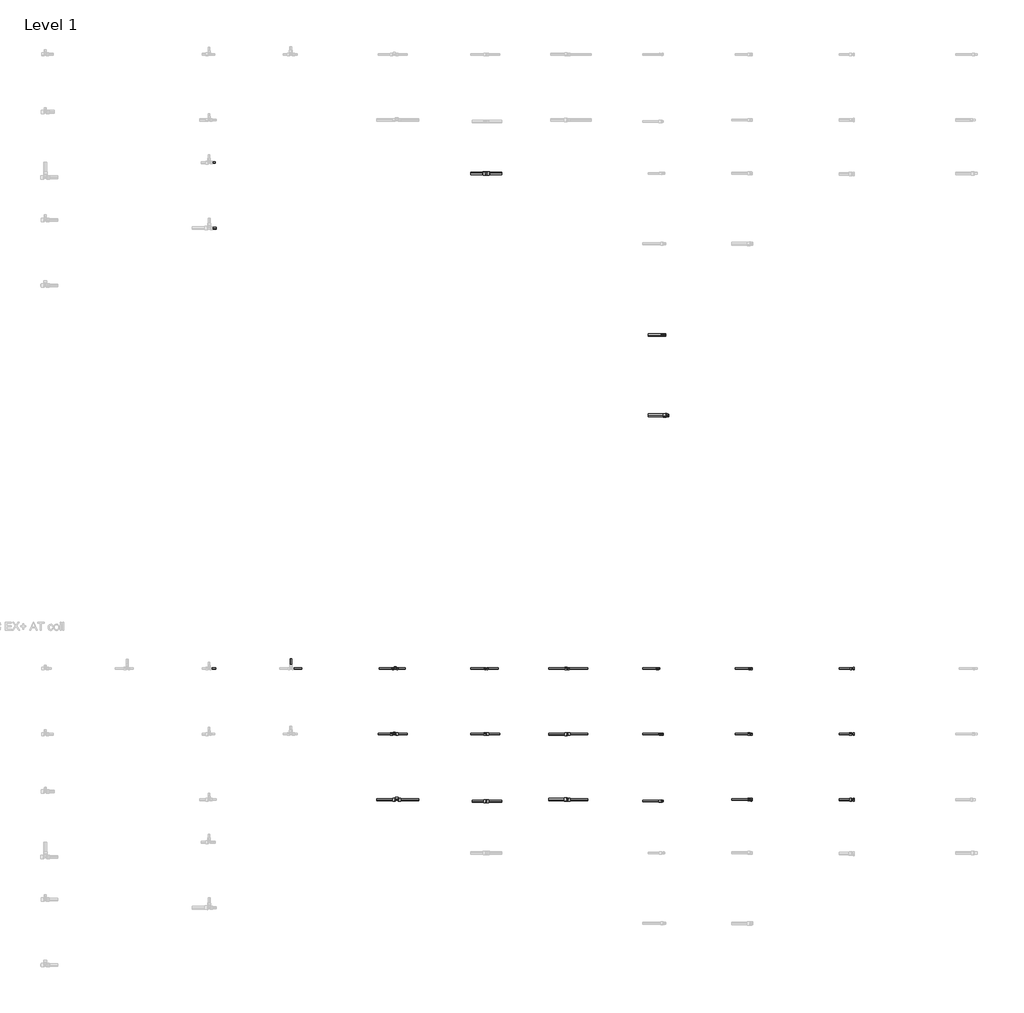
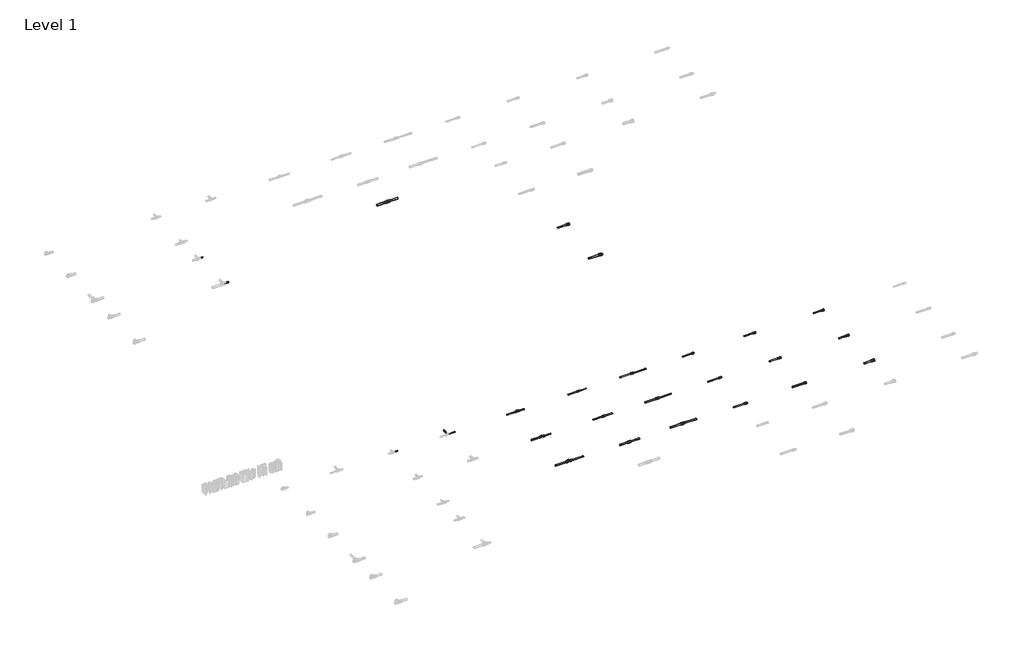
# One storey, part 8 of 16: 36 pipe segments, 21 pipe fittings.
"""IFC4 building model written with IfcOpenShell, lengths in millimetres."""

from ifc_helpers import new_model, si_unit, point, frame, frame_2d, origin, place, context, project, spatial, circle_curve, trimmed, segment, composite_curve, outline, extrude, transform, mapped, element, save
from components import pipe_fitting_431f7250, pipe_fitting_a4fef31a, pipe_fitting_41a35f07, pipe_fitting_bbd05bdc, pipe_fitting_027be69e, pipe_fitting_e3b44c6b, pipe_fitting_688652c5, pipe_fitting_6195120d, pipe_fitting_f5731c1c, pipe_fitting_1d22680d, pipe_fitting_5e3c5755, pipe_fitting_f9f4b2e9, pipe_fitting_382bea88, pipe_fitting_3eb6683a, pipe_fitting_836a2278, pipe_fitting_a8691e68, pipe_fitting_c518d98d, pipe_fitting_b7086254, pipe_fitting_ca26b6f5, pipe_fitting_f7ee4d9f, pipe_fitting_f8d70d0e

model = new_model("IFC4")

# Units and contexts
model_context = context("Model", 3, world=origin())
ifc_project = project(units=[si_unit("LENGTHUNIT", "METRE", prefix="MILLI")], contexts=[model_context])

# Site, building, storey
site = spatial("IfcSite", under=ifc_project)
building = spatial("IfcBuilding", under=site)
storey = spatial("IfcBuildingStorey", under=building, Name="Level 1", Elevation=0.0)

# Pipe fittings
placement = place(None, origin())
pipe_fitting_shape = pipe_fitting_431f7250(model_context)
element("IfcPipeFitting", 1, ObjectType="FASTLOC_Adapter_RX+, with external thread : FSL A C external EX+ DE", at=placement, inside=storey, context=model_context, shape_type="MappedRepresentation", body=[
    mapped(pipe_fitting_shape, transform((37515.9601208, -2213.6704117, 0.0), x_axis=(1.0, 0.0, 0.0), y_axis=(0.0, 1.0, 0.0), z_axis=(0.0, 0.0, 1.0))),
])
pipe_fitting_2_shape = pipe_fitting_a4fef31a(model_context)
element("IfcPipeFitting", 2, ObjectType="FASTLOC_Adapter_RX+, with external thread : FSL A C external EX+ DE", at=placement, inside=storey, context=model_context, shape_type="MappedRepresentation", body=[
    mapped(pipe_fitting_2_shape, transform((37553.9463601, -3193.7153858, 0.0), x_axis=(1.0, 0.0, 0.0), y_axis=(0.0, 1.0, 0.0), z_axis=(0.0, 0.0, 1.0))),
])
pipe_fitting_3_shape = pipe_fitting_41a35f07(model_context)
element("IfcPipeFitting", 3, ObjectType="FASTLOC_Adapter_RX+, with external thread : FSL A C external EX+ AT", at=placement, inside=storey, context=model_context, shape_type="MappedRepresentation", body=[
    mapped(pipe_fitting_3_shape, transform((37480.5062975, -7087.6479967, 0.0), x_axis=(1.0, 0.0, 0.0), y_axis=(0.0, 1.0, 0.0), z_axis=(0.0, 0.0, 1.0))),
])
pipe_fitting_4_shape = pipe_fitting_bbd05bdc(model_context)
element("IfcPipeFitting", 4, ObjectType="FASTLOC_Adapter_RX+, with external thread : FSL A C external EX+ AT", at=placement, inside=storey, context=model_context, shape_type="MappedRepresentation", body=[
    mapped(pipe_fitting_4_shape, transform((37490.6359613, -7906.354246, 0.0), x_axis=(1.0, 0.0, 0.0), y_axis=(0.0, 1.0, 0.0), z_axis=(0.0, 0.0, 1.0))),
])
pipe_fitting_5_shape = pipe_fitting_027be69e(model_context)
element("IfcPipeFitting", 5, ObjectType="FASTLOC_Coupling equal EX+ : FSL C EQ EX+ AT", at=placement, inside=storey, context=model_context, shape_type="MappedRepresentation", body=[
    mapped(pipe_fitting_5_shape, transform((35347.6401575, -6287.6479967, 0.0), x_axis=(1.0, 0.0, 0.0), y_axis=(0.0, 1.0, 0.0), z_axis=(0.0, 0.0, 1.0))),
])
pipe_fitting_6_shape = pipe_fitting_e3b44c6b(model_context)
element("IfcPipeFitting", 6, ObjectType="FASTLOC_T-piece internal thread EX+ : FSL T thread EX+ AT", at=placement, inside=storey, context=model_context, shape_type="MappedRepresentation", body=[
    mapped(pipe_fitting_6_shape, transform((34223.972973, -7087.6479967, 0.0), x_axis=(1.0, 0.0, 0.0), y_axis=(0.0, 1.0, 0.0), z_axis=(0.0, 0.0, 1.0))),
])
pipe_fitting_7_shape = pipe_fitting_688652c5(model_context)
element("IfcPipeFitting", 7, ObjectType="FASTLOC_T-piece internal thread EX+ : FSL T thread EX+ AT", at=placement, inside=storey, context=model_context, shape_type="MappedRepresentation", body=[
    mapped(pipe_fitting_7_shape, transform((34254.9423493, -7887.6479967, 0.0), x_axis=(1.0, 0.0, 0.0), y_axis=(0.0, 1.0, 0.0), z_axis=(0.0, 0.0, 1.0))),
])
pipe_fitting_8_shape = pipe_fitting_6195120d(model_context)
element("IfcPipeFitting", 8, ObjectType="FASTLOC_Coupling reduced EX+ : FSL C RE EX+ AT", at=placement, inside=storey, context=model_context, shape_type="MappedRepresentation", body=[
    mapped(pipe_fitting_8_shape, transform((36342.2258143, -6287.6479967, 0.0), x_axis=(1.0, 0.0, 0.0), y_axis=(0.0, 1.0, 0.0), z_axis=(0.0, 0.0, 1.0))),
])
pipe_fitting_9_shape = pipe_fitting_f5731c1c(model_context)
element("IfcPipeFitting", 9, ObjectType="FASTLOC_Coupling equal EX+ : FSL C EQ EX+ DE", at=placement, inside=storey, context=model_context, shape_type="MappedRepresentation", body=[
    mapped(pipe_fitting_9_shape, transform((35347.6401575, -239.0537829, 0.0), x_axis=(1.0, 0.0, 0.0), y_axis=(0.0, 1.0, 0.0), z_axis=(0.0, 0.0, 1.0))),
])
pipe_fitting_10_shape = pipe_fitting_1d22680d(model_context)
element("IfcPipeFitting", 10, ObjectType="FASTLOC_Coupling equal EX+ : FSL C EQ EX+ AT", at=placement, inside=storey, context=model_context, shape_type="MappedRepresentation", body=[
    mapped(pipe_fitting_10_shape, transform((35347.6401575, -7087.6479967, 0.0), x_axis=(1.0, 0.0, 0.0), y_axis=(0.0, 1.0, 0.0), z_axis=(0.0, 0.0, 1.0))),
])
pipe_fitting_11_shape = pipe_fitting_5e3c5755(model_context)
element("IfcPipeFitting", 11, ObjectType="FASTLOC_Coupling equal EX+ : FSL C EQ EX+ AT", at=placement, inside=storey, context=model_context, shape_type="MappedRepresentation", body=[
    mapped(pipe_fitting_11_shape, transform((35347.6401575, -7906.354246, 0.0), x_axis=(1.0, 0.0, 0.0), y_axis=(0.0, 1.0, 0.0), z_axis=(0.0, 0.0, 1.0))),
])
pipe_fitting_12_shape = pipe_fitting_f9f4b2e9(model_context)
element("IfcPipeFitting", 12, ObjectType="FASTLOC_Coupling reduced EX+ : FSL C RE EX+ AT", at=placement, inside=storey, context=model_context, shape_type="MappedRepresentation", body=[
    mapped(pipe_fitting_12_shape, transform((36342.2258143, -7087.6479967, 0.0), x_axis=(1.0, 0.0, 0.0), y_axis=(0.0, 1.0, 0.0), z_axis=(0.0, 0.0, 1.0))),
])
pipe_fitting_13_shape = pipe_fitting_382bea88(model_context)
element("IfcPipeFitting", 13, ObjectType="FASTLOC_Coupling reduced EX+ : FSL C RE EX+ AT", at=placement, inside=storey, context=model_context, shape_type="MappedRepresentation", body=[
    mapped(pipe_fitting_13_shape, transform((36342.2258143, -7887.6479967, 0.0), x_axis=(1.0, 0.0, 0.0), y_axis=(0.0, 1.0, 0.0), z_axis=(0.0, 0.0, 1.0))),
])
pipe_fitting_14_shape = pipe_fitting_3eb6683a(model_context)
element("IfcPipeFitting", 14, ObjectType="FASTLOC_T-piece internal thread EX+ : FSL T thread EX+ AT", at=placement, inside=storey, context=model_context, shape_type="MappedRepresentation", body=[
    mapped(pipe_fitting_14_shape, transform((34234.0203333, -6287.6479967, 0.0), x_axis=(1.0, 0.0, 0.0), y_axis=(0.0, 1.0, 0.0), z_axis=(0.0, 0.0, 1.0))),
])
pipe_fitting_15_shape = pipe_fitting_836a2278(model_context)
element("IfcPipeFitting", 15, ObjectType="FASTLOC_Adapter_EX+, with internal thread : FSL A internal AT", at=placement, inside=storey, context=model_context, shape_type="MappedRepresentation", body=[
    mapped(pipe_fitting_15_shape, transform((38579.5143796, -6287.6479967, 0.0), x_axis=(1.0, 0.0, 0.0), y_axis=(0.0, 1.0, 0.0), z_axis=(0.0, 0.0, 1.0))),
])
pipe_fitting_16_shape = pipe_fitting_a8691e68(model_context)
element("IfcPipeFitting", 16, ObjectType="FASTLOC_Adapter_RX+, with external thread : FSL A C external EX+ AT", at=placement, inside=storey, context=model_context, shape_type="MappedRepresentation", body=[
    mapped(pipe_fitting_16_shape, transform((37445.0524741, -6287.6479967, 0.0), x_axis=(1.0, 0.0, 0.0), y_axis=(0.0, 1.0, 0.0), z_axis=(0.0, 0.0, 1.0))),
])
pipe_fitting_17_shape = pipe_fitting_c518d98d(model_context)
element("IfcPipeFitting", 17, ObjectType="FASTLOC_Adapter with union nut EX+ : FSL A union nut EX+ AT", at=placement, inside=storey, context=model_context, shape_type="MappedRepresentation", body=[
    mapped(pipe_fitting_17_shape, transform((39818.3503777, -7087.6479967, 0.0), x_axis=(1.0, 0.0, 0.0), y_axis=(0.0, 1.0, 0.0), z_axis=(0.0, 0.0, 1.0))),
])
pipe_fitting_18_shape = pipe_fitting_b7086254(model_context)
element("IfcPipeFitting", 18, ObjectType="FASTLOC_Adapter with union nut EX+ : FSL A union nut EX+ AT", at=placement, inside=storey, context=model_context, shape_type="MappedRepresentation", body=[
    mapped(pipe_fitting_18_shape, transform((39818.3503777, -7887.6479967, 0.0), x_axis=(1.0, 0.0, 0.0), y_axis=(0.0, 1.0, 0.0), z_axis=(0.0, 0.0, 1.0))),
])
pipe_fitting_19_shape = pipe_fitting_ca26b6f5(model_context)
element("IfcPipeFitting", 19, ObjectType="FASTLOC_Adapter with union nut EX+ : FSL A union nut EX+ AT", at=placement, inside=storey, context=model_context, shape_type="MappedRepresentation", body=[
    mapped(pipe_fitting_19_shape, transform((39818.3503777, -6287.6479967, 0.0), x_axis=(1.0, 0.0, 0.0), y_axis=(0.0, 1.0, 0.0), z_axis=(0.0, 0.0, 1.0))),
])
pipe_fitting_20_shape = pipe_fitting_f7ee4d9f(model_context)
element("IfcPipeFitting", 20, ObjectType="FASTLOC_Adapter_EX+, with internal thread : FSL A internal AT", at=placement, inside=storey, context=model_context, shape_type="MappedRepresentation", body=[
    mapped(pipe_fitting_20_shape, transform((38579.5143796, -7087.6479967, 0.0), x_axis=(1.0, 0.0, 0.0), y_axis=(0.0, 1.0, 0.0), z_axis=(0.0, 0.0, 1.0))),
])
pipe_fitting_21_shape = pipe_fitting_f8d70d0e(model_context)
element("IfcPipeFitting", 21, ObjectType="FASTLOC_Adapter_EX+, with internal thread : FSL A internal AT", at=placement, inside=storey, context=model_context, shape_type="MappedRepresentation", body=[
    mapped(pipe_fitting_21_shape, transform((38579.5143796, -7887.6479967, 0.0), x_axis=(1.0, 0.0, 0.0), y_axis=(0.0, 1.0, 0.0), z_axis=(0.0, 0.0, 1.0))),
])

# Pipe segments
element("IfcPipeSegment", 22, ObjectType="FASTLOC EX+ ML DE coil", at=placement, inside=storey, context=model_context, shape_type="SweptSolid", body=[
    extrude(outline(composite_curve([segment(trimmed(circle_curve(frame_2d((-2213.6704117, 0.0)), 12.5), [point((-2201.1704117, 0.0))], [point((-2213.6704117, -12.5))], False, "CARTESIAN"), True, "CONTINUOUS"), segment(trimmed(circle_curve(frame_2d((-2213.6704117, 0.0)), 12.5), [point((-2213.6704117, -12.5))], [point((-2226.1704117, 0.0))], False, "CARTESIAN"), True, "CONTINUOUS"), segment(trimmed(circle_curve(frame_2d((-2213.6704117, 0.0)), 12.5), [point((-2226.1704117, 0.0))], [point((-2213.6704117, 12.5))], False, "CARTESIAN"), True, "CONTINUOUS"), segment(trimmed(circle_curve(frame_2d((-2213.6704117, 0.0)), 12.5), [point((-2213.6704117, 12.5))], [point((-2201.1704117, 0.0))], False, "CARTESIAN"), True, "CONTINUOUS")], self_intersect=False)), frame((37326.5601208, 0.0, 0.0), z_axis=(1.0, 0.0, 0.0), x_axis=(0.0, 1.0, 0.0)), (0.0, 0.0, 1.0), 180.0),
])
element("IfcPipeSegment", 23, ObjectType="FASTLOC EX+ ML DE coil", at=placement, inside=storey, context=model_context, shape_type="SweptSolid", body=[
    extrude(outline(composite_curve([segment(trimmed(circle_curve(frame_2d((-239.0537829, 0.0)), 16.0), [point((-255.0537829, 0.0))], [point((-239.0537829, 16.0))], False, "CARTESIAN"), True, "CONTINUOUS"), segment(trimmed(circle_curve(frame_2d((-239.0537829, 0.0)), 16.0), [point((-239.0537829, 16.0))], [point((-223.0537829, 0.0))], False, "CARTESIAN"), True, "CONTINUOUS"), segment(trimmed(circle_curve(frame_2d((-239.0537829, 0.0)), 16.0), [point((-223.0537829, 0.0))], [point((-239.0537829, -16.0))], False, "CARTESIAN"), True, "CONTINUOUS"), segment(trimmed(circle_curve(frame_2d((-239.0537829, 0.0)), 16.0), [point((-239.0537829, -16.0))], [point((-255.0537829, 0.0))], False, "CARTESIAN"), True, "CONTINUOUS")], self_intersect=False)), frame((35357.6401575, 0.0, 0.0), z_axis=(1.0, 0.0, 0.0), x_axis=(0.0, 1.0, 0.0)), (0.0, 0.0, 1.0), 178.0),
])
element("IfcPipeSegment", 24, ObjectType="FASTLOC EX+ ML DE coil", at=placement, inside=storey, context=model_context, shape_type="SweptSolid", body=[
    extrude(outline(composite_curve([segment(trimmed(circle_curve(frame_2d((-239.0537829, 0.0)), 16.0), [point((-223.0537829, 0.0))], [point((-239.0537829, -16.0))], False, "CARTESIAN"), True, "CONTINUOUS"), segment(trimmed(circle_curve(frame_2d((-239.0537829, 0.0)), 16.0), [point((-239.0537829, -16.0))], [point((-255.0537829, 0.0))], False, "CARTESIAN"), True, "CONTINUOUS"), segment(trimmed(circle_curve(frame_2d((-239.0537829, 0.0)), 16.0), [point((-255.0537829, 0.0))], [point((-239.0537829, 16.0))], False, "CARTESIAN"), True, "CONTINUOUS"), segment(trimmed(circle_curve(frame_2d((-239.0537829, 0.0)), 16.0), [point((-239.0537829, 16.0))], [point((-223.0537829, 0.0))], False, "CARTESIAN"), True, "CONTINUOUS")], self_intersect=False)), frame((35157.6401575, 0.0, 0.0), z_axis=(1.0, 0.0, 0.0), x_axis=(0.0, 1.0, 0.0)), (0.0, 0.0, 1.0), 180.0),
])
element("IfcPipeSegment", 25, ObjectType="FASTLOC EX+ ML DE coil", at=placement, inside=storey, context=model_context, shape_type="SweptSolid", body=[
    extrude(outline(composite_curve([segment(trimmed(circle_curve(frame_2d((-107.6479967, 0.0)), 10.0), [point((-117.6479967, 0.0))], [point((-107.6479967, 10.0))], False, "CARTESIAN"), True, "CONTINUOUS"), segment(trimmed(circle_curve(frame_2d((-107.6479967, 0.0)), 10.0), [point((-107.6479967, 10.0))], [point((-97.6479967, 0.0))], False, "CARTESIAN"), True, "CONTINUOUS"), segment(trimmed(circle_curve(frame_2d((-107.6479967, 0.0)), 10.0), [point((-97.6479967, 0.0))], [point((-107.6479967, -10.0))], False, "CARTESIAN"), True, "CONTINUOUS"), segment(trimmed(circle_curve(frame_2d((-107.6479967, 0.0)), 10.0), [point((-107.6479967, -10.0))], [point((-117.6479967, 0.0))], False, "CARTESIAN"), True, "CONTINUOUS")], self_intersect=False)), frame((31980.3146925, 0.0, 0.0), z_axis=(1.0, 0.0, 0.0), x_axis=(0.0, 1.0, 0.0)), (0.0, 0.0, 1.0), 60.0),
])
element("IfcPipeSegment", 26, ObjectType="FASTLOC EX+ ML DE coil", at=placement, inside=storey, context=model_context, shape_type="SweptSolid", body=[
    extrude(outline(composite_curve([segment(trimmed(circle_curve(frame_2d((-907.6479967, 0.0)), 12.5), [point((-920.1479967, 0.0))], [point((-907.6479967, 12.5))], False, "CARTESIAN"), True, "CONTINUOUS"), segment(trimmed(circle_curve(frame_2d((-907.6479967, 0.0)), 12.5), [point((-907.6479967, 12.5))], [point((-895.1479967, 0.0))], False, "CARTESIAN"), True, "CONTINUOUS"), segment(trimmed(circle_curve(frame_2d((-907.6479967, 0.0)), 12.5), [point((-895.1479967, 0.0))], [point((-907.6479967, -12.5))], False, "CARTESIAN"), True, "CONTINUOUS"), segment(trimmed(circle_curve(frame_2d((-907.6479967, 0.0)), 12.5), [point((-907.6479967, -12.5))], [point((-920.1479967, 0.0))], False, "CARTESIAN"), True, "CONTINUOUS")], self_intersect=False)), frame((31983.0146925, 0.0, 0.0), z_axis=(1.0, 0.0, 0.0), x_axis=(0.0, 1.0, 0.0)), (0.0, 0.0, 1.0), 70.4),
])
element("IfcPipeSegment", 27, ObjectType="FASTLOC EX+ ML DE coil", at=placement, inside=storey, context=model_context, shape_type="SweptSolid", body=[
    extrude(outline(composite_curve([segment(trimmed(circle_curve(frame_2d((-3193.7153858, 0.0)), 16.0), [point((-3177.7153858, 0.0))], [point((-3193.7153858, -16.0))], False, "CARTESIAN"), True, "CONTINUOUS"), segment(trimmed(circle_curve(frame_2d((-3193.7153858, 0.0)), 16.0), [point((-3193.7153858, -16.0))], [point((-3209.7153858, 0.0))], False, "CARTESIAN"), True, "CONTINUOUS"), segment(trimmed(circle_curve(frame_2d((-3193.7153858, 0.0)), 16.0), [point((-3209.7153858, 0.0))], [point((-3193.7153858, 16.0))], False, "CARTESIAN"), True, "CONTINUOUS"), segment(trimmed(circle_curve(frame_2d((-3193.7153858, 0.0)), 16.0), [point((-3193.7153858, 16.0))], [point((-3177.7153858, 0.0))], False, "CARTESIAN"), True, "CONTINUOUS")], self_intersect=False)), frame((37326.5601208, 0.0, 0.0), z_axis=(1.0, 0.0, 0.0), x_axis=(0.0, 1.0, 0.0)), (0.0, 0.0, 1.0), 212.7862393),
])
element("IfcPipeSegment", 28, ObjectType="FASTLOC EX+ ML AT coil", at=placement, inside=storey, context=model_context, shape_type="SweptSolid", body=[
    extrude(outline(composite_curve([segment(trimmed(circle_curve(frame_2d((-6287.6479967, 0.0)), 8.0), [point((-6279.6479967, 0.0))], [point((-6287.6479967, -8.0))], False, "CARTESIAN"), True, "CONTINUOUS"), segment(trimmed(circle_curve(frame_2d((-6287.6479967, 0.0)), 8.0), [point((-6287.6479967, -8.0))], [point((-6295.6479967, 0.0))], False, "CARTESIAN"), True, "CONTINUOUS"), segment(trimmed(circle_curve(frame_2d((-6287.6479967, 0.0)), 8.0), [point((-6295.6479967, 0.0))], [point((-6287.6479967, 8.0))], False, "CARTESIAN"), True, "CONTINUOUS"), segment(trimmed(circle_curve(frame_2d((-6287.6479967, 0.0)), 8.0), [point((-6287.6479967, 8.0))], [point((-6279.6479967, 0.0))], False, "CARTESIAN"), True, "CONTINUOUS")], self_intersect=False)), frame((39659.3503777, 0.0, 0.0), z_axis=(1.0, 0.0, 0.0), x_axis=(0.0, 1.0, 0.0)), (0.0, 0.0, 1.0), 150.0),
])
element("IfcPipeSegment", 29, ObjectType="FASTLOC EX+ ML AT coil", at=placement, inside=storey, context=model_context, shape_type="SweptSolid", body=[
    extrude(outline(composite_curve([segment(trimmed(circle_curve(frame_2d((-7087.6479967, 0.0)), 10.0), [point((-7077.6479967, 0.0))], [point((-7087.6479967, -10.0))], False, "CARTESIAN"), True, "CONTINUOUS"), segment(trimmed(circle_curve(frame_2d((-7087.6479967, 0.0)), 10.0), [point((-7087.6479967, -10.0))], [point((-7097.6479967, 0.0))], False, "CARTESIAN"), True, "CONTINUOUS"), segment(trimmed(circle_curve(frame_2d((-7087.6479967, 0.0)), 10.0), [point((-7097.6479967, 0.0))], [point((-7087.6479967, 10.0))], False, "CARTESIAN"), True, "CONTINUOUS"), segment(trimmed(circle_curve(frame_2d((-7087.6479967, 0.0)), 10.0), [point((-7087.6479967, 10.0))], [point((-7077.6479967, 0.0))], False, "CARTESIAN"), True, "CONTINUOUS")], self_intersect=False)), frame((39659.3503777, 0.0, 0.0), z_axis=(1.0, 0.0, 0.0), x_axis=(0.0, 1.0, 0.0)), (0.0, 0.0, 1.0), 150.0),
])
element("IfcPipeSegment", 30, ObjectType="FASTLOC EX+ ML AT coil", at=placement, inside=storey, context=model_context, shape_type="SweptSolid", body=[
    extrude(outline(composite_curve([segment(trimmed(circle_curve(frame_2d((-7887.6479967, 0.0)), 12.5), [point((-7875.1479967, 0.0))], [point((-7887.6479967, -12.5))], False, "CARTESIAN"), True, "CONTINUOUS"), segment(trimmed(circle_curve(frame_2d((-7887.6479967, 0.0)), 12.5), [point((-7887.6479967, -12.5))], [point((-7900.1479967, 0.0))], False, "CARTESIAN"), True, "CONTINUOUS"), segment(trimmed(circle_curve(frame_2d((-7887.6479967, 0.0)), 12.5), [point((-7900.1479967, 0.0))], [point((-7887.6479967, 12.5))], False, "CARTESIAN"), True, "CONTINUOUS"), segment(trimmed(circle_curve(frame_2d((-7887.6479967, 0.0)), 12.5), [point((-7887.6479967, 12.5))], [point((-7875.1479967, 0.0))], False, "CARTESIAN"), True, "CONTINUOUS")], self_intersect=False)), frame((39659.3503777, 0.0, 0.0), z_axis=(1.0, 0.0, 0.0), x_axis=(0.0, 1.0, 0.0)), (0.0, 0.0, 1.0), 148.7),
])
element("IfcPipeSegment", 31, ObjectType="FASTLOC EX+ ML AT coil", at=placement, inside=storey, context=model_context, shape_type="SweptSolid", body=[
    extrude(outline(composite_curve([segment(trimmed(circle_curve(frame_2d((-6287.6479967, 0.0)), 8.0), [point((-6279.6479967, 0.0))], [point((-6287.6479967, -8.0))], False, "CARTESIAN"), True, "CONTINUOUS"), segment(trimmed(circle_curve(frame_2d((-6287.6479967, 0.0)), 8.0), [point((-6287.6479967, -8.0))], [point((-6295.6479967, 0.0))], False, "CARTESIAN"), True, "CONTINUOUS"), segment(trimmed(circle_curve(frame_2d((-6287.6479967, 0.0)), 8.0), [point((-6295.6479967, 0.0))], [point((-6287.6479967, 8.0))], False, "CARTESIAN"), True, "CONTINUOUS"), segment(trimmed(circle_curve(frame_2d((-6287.6479967, 0.0)), 8.0), [point((-6287.6479967, 8.0))], [point((-6279.6479967, 0.0))], False, "CARTESIAN"), True, "CONTINUOUS")], self_intersect=False)), frame((38387.1143796, 0.0, 0.0), z_axis=(1.0, 0.0, 0.0), x_axis=(0.0, 1.0, 0.0)), (0.0, 0.0, 1.0), 180.0),
])
element("IfcPipeSegment", 32, ObjectType="FASTLOC EX+ ML AT coil", at=placement, inside=storey, context=model_context, shape_type="SweptSolid", body=[
    extrude(outline(composite_curve([segment(trimmed(circle_curve(frame_2d((-7087.6479967, 0.0)), 10.0), [point((-7077.6479967, 0.0))], [point((-7087.6479967, -10.0))], False, "CARTESIAN"), True, "CONTINUOUS"), segment(trimmed(circle_curve(frame_2d((-7087.6479967, 0.0)), 10.0), [point((-7087.6479967, -10.0))], [point((-7097.6479967, 0.0))], False, "CARTESIAN"), True, "CONTINUOUS"), segment(trimmed(circle_curve(frame_2d((-7087.6479967, 0.0)), 10.0), [point((-7097.6479967, 0.0))], [point((-7087.6479967, 10.0))], False, "CARTESIAN"), True, "CONTINUOUS"), segment(trimmed(circle_curve(frame_2d((-7087.6479967, 0.0)), 10.0), [point((-7087.6479967, 10.0))], [point((-7077.6479967, 0.0))], False, "CARTESIAN"), True, "CONTINUOUS")], self_intersect=False)), frame((38387.1143796, 0.0, 0.0), z_axis=(1.0, 0.0, 0.0), x_axis=(0.0, 1.0, 0.0)), (0.0, 0.0, 1.0), 180.7),
])
element("IfcPipeSegment", 33, ObjectType="FASTLOC EX+ ML AT coil", at=placement, inside=storey, context=model_context, shape_type="SweptSolid", body=[
    extrude(outline(composite_curve([segment(trimmed(circle_curve(frame_2d((-7887.6479967, 0.0)), 10.0), [point((-7877.6479967, 0.0))], [point((-7887.6479967, -10.0))], False, "CARTESIAN"), True, "CONTINUOUS"), segment(trimmed(circle_curve(frame_2d((-7887.6479967, 0.0)), 10.0), [point((-7887.6479967, -10.0))], [point((-7897.6479967, 0.0))], False, "CARTESIAN"), True, "CONTINUOUS"), segment(trimmed(circle_curve(frame_2d((-7887.6479967, 0.0)), 10.0), [point((-7897.6479967, 0.0))], [point((-7887.6479967, 10.0))], False, "CARTESIAN"), True, "CONTINUOUS"), segment(trimmed(circle_curve(frame_2d((-7887.6479967, 0.0)), 10.0), [point((-7887.6479967, 10.0))], [point((-7877.6479967, 0.0))], False, "CARTESIAN"), True, "CONTINUOUS")], self_intersect=False)), frame((38346.2143796, 0.0, 0.0), z_axis=(1.0, 0.0, 0.0), x_axis=(0.0, 1.0, 0.0)), (0.0, 0.0, 1.0), 220.0),
])
element("IfcPipeSegment", 34, ObjectType="FASTLOC EX+ ML AT coil", at=placement, inside=storey, context=model_context, shape_type="SweptSolid", body=[
    extrude(outline(composite_curve([segment(trimmed(circle_curve(frame_2d((-7906.354246, 0.0)), 10.0), [point((-7896.354246, 0.0))], [point((-7906.354246, -10.0))], False, "CARTESIAN"), True, "CONTINUOUS"), segment(trimmed(circle_curve(frame_2d((-7906.354246, 0.0)), 10.0), [point((-7906.354246, -10.0))], [point((-7916.354246, 0.0))], False, "CARTESIAN"), True, "CONTINUOUS"), segment(trimmed(circle_curve(frame_2d((-7906.354246, 0.0)), 10.0), [point((-7916.354246, 0.0))], [point((-7906.354246, 10.0))], False, "CARTESIAN"), True, "CONTINUOUS"), segment(trimmed(circle_curve(frame_2d((-7906.354246, 0.0)), 10.0), [point((-7906.354246, 10.0))], [point((-7896.354246, 0.0))], False, "CARTESIAN"), True, "CONTINUOUS")], self_intersect=False)), frame((37261.9359613, 0.0, 0.0), z_axis=(1.0, 0.0, 0.0), x_axis=(0.0, 1.0, 0.0)), (0.0, 0.0, 1.0), 220.0),
])
element("IfcPipeSegment", 35, ObjectType="FASTLOC EX+ ML AT coil", at=placement, inside=storey, context=model_context, shape_type="SweptSolid", body=[
    extrude(outline(composite_curve([segment(trimmed(circle_curve(frame_2d((-7087.6479967, 0.0)), 8.0), [point((-7079.6479967, 0.0))], [point((-7087.6479967, -8.0))], False, "CARTESIAN"), True, "CONTINUOUS"), segment(trimmed(circle_curve(frame_2d((-7087.6479967, 0.0)), 8.0), [point((-7087.6479967, -8.0))], [point((-7095.6479967, 0.0))], False, "CARTESIAN"), True, "CONTINUOUS"), segment(trimmed(circle_curve(frame_2d((-7087.6479967, 0.0)), 8.0), [point((-7095.6479967, 0.0))], [point((-7087.6479967, 8.0))], False, "CARTESIAN"), True, "CONTINUOUS"), segment(trimmed(circle_curve(frame_2d((-7087.6479967, 0.0)), 8.0), [point((-7087.6479967, 8.0))], [point((-7079.6479967, 0.0))], False, "CARTESIAN"), True, "CONTINUOUS")], self_intersect=False)), frame((37261.9359613, 0.0, 0.0), z_axis=(1.0, 0.0, 0.0), x_axis=(0.0, 1.0, 0.0)), (0.0, 0.0, 1.0), 209.6703362),
])
element("IfcPipeSegment", 36, ObjectType="FASTLOC EX+ ML AT coil", at=placement, inside=storey, context=model_context, shape_type="SweptSolid", body=[
    extrude(outline(composite_curve([segment(trimmed(circle_curve(frame_2d((-6287.6479967, 0.0)), 8.0), [point((-6279.6479967, 0.0))], [point((-6287.6479967, -8.0))], False, "CARTESIAN"), True, "CONTINUOUS"), segment(trimmed(circle_curve(frame_2d((-6287.6479967, 0.0)), 8.0), [point((-6287.6479967, -8.0))], [point((-6295.6479967, 0.0))], False, "CARTESIAN"), True, "CONTINUOUS"), segment(trimmed(circle_curve(frame_2d((-6287.6479967, 0.0)), 8.0), [point((-6295.6479967, 0.0))], [point((-6287.6479967, 8.0))], False, "CARTESIAN"), True, "CONTINUOUS"), segment(trimmed(circle_curve(frame_2d((-6287.6479967, 0.0)), 8.0), [point((-6287.6479967, 8.0))], [point((-6279.6479967, 0.0))], False, "CARTESIAN"), True, "CONTINUOUS")], self_intersect=False)), frame((37261.9359613, 0.0, 0.0), z_axis=(1.0, 0.0, 0.0), x_axis=(0.0, 1.0, 0.0)), (0.0, 0.0, 1.0), 174.2165128),
])
element("IfcPipeSegment", 37, ObjectType="FASTLOC EX+ ML AT coil", at=placement, inside=storey, context=model_context, shape_type="SweptSolid", body=[
    extrude(outline(composite_curve([segment(trimmed(circle_curve(frame_2d((-6287.6479967, 0.0)), 8.0), [point((-6295.6479967, 0.0))], [point((-6287.6479967, 8.0))], False, "CARTESIAN"), True, "CONTINUOUS"), segment(trimmed(circle_curve(frame_2d((-6287.6479967, 0.0)), 8.0), [point((-6287.6479967, 8.0))], [point((-6279.6479967, 0.0))], False, "CARTESIAN"), True, "CONTINUOUS"), segment(trimmed(circle_curve(frame_2d((-6287.6479967, 0.0)), 8.0), [point((-6279.6479967, 0.0))], [point((-6287.6479967, -8.0))], False, "CARTESIAN"), True, "CONTINUOUS"), segment(trimmed(circle_curve(frame_2d((-6287.6479967, 0.0)), 8.0), [point((-6287.6479967, -8.0))], [point((-6295.6479967, 0.0))], False, "CARTESIAN"), True, "CONTINUOUS")], self_intersect=False)), frame((35354.8401575, 0.0, 0.0), z_axis=(1.0, 0.0, 0.0), x_axis=(0.0, 1.0, 0.0)), (0.0, 0.0, 1.0), 140.0),
])
element("IfcPipeSegment", 38, ObjectType="FASTLOC EX+ ML AT coil", at=placement, inside=storey, context=model_context, shape_type="SweptSolid", body=[
    extrude(outline(composite_curve([segment(trimmed(circle_curve(frame_2d((-6287.6479967, 0.0)), 8.0), [point((-6279.6479967, 0.0))], [point((-6287.6479967, -8.0))], False, "CARTESIAN"), True, "CONTINUOUS"), segment(trimmed(circle_curve(frame_2d((-6287.6479967, 0.0)), 8.0), [point((-6287.6479967, -8.0))], [point((-6295.6479967, 0.0))], False, "CARTESIAN"), True, "CONTINUOUS"), segment(trimmed(circle_curve(frame_2d((-6287.6479967, 0.0)), 8.0), [point((-6295.6479967, 0.0))], [point((-6287.6479967, 8.0))], False, "CARTESIAN"), True, "CONTINUOUS"), segment(trimmed(circle_curve(frame_2d((-6287.6479967, 0.0)), 8.0), [point((-6287.6479967, 8.0))], [point((-6279.6479967, 0.0))], False, "CARTESIAN"), True, "CONTINUOUS")], self_intersect=False)), frame((35160.4401575, 0.0, 0.0), z_axis=(1.0, 0.0, 0.0), x_axis=(0.0, 1.0, 0.0)), (0.0, 0.0, 1.0), 180.0),
])
element("IfcPipeSegment", 39, ObjectType="FASTLOC EX+ ML AT coil", at=placement, inside=storey, context=model_context, shape_type="SweptSolid", body=[
    extrude(outline(composite_curve([segment(trimmed(circle_curve(frame_2d((-7087.6479967, 0.0)), 10.0), [point((-7097.6479967, 0.0))], [point((-7087.6479967, 10.0))], False, "CARTESIAN"), True, "CONTINUOUS"), segment(trimmed(circle_curve(frame_2d((-7087.6479967, 0.0)), 10.0), [point((-7087.6479967, 10.0))], [point((-7077.6479967, 0.0))], False, "CARTESIAN"), True, "CONTINUOUS"), segment(trimmed(circle_curve(frame_2d((-7087.6479967, 0.0)), 10.0), [point((-7077.6479967, 0.0))], [point((-7087.6479967, -10.0))], False, "CARTESIAN"), True, "CONTINUOUS"), segment(trimmed(circle_curve(frame_2d((-7087.6479967, 0.0)), 10.0), [point((-7087.6479967, -10.0))], [point((-7097.6479967, 0.0))], False, "CARTESIAN"), True, "CONTINUOUS")], self_intersect=False)), frame((35355.0401575, 0.0, 0.0), z_axis=(1.0, 0.0, 0.0), x_axis=(0.0, 1.0, 0.0)), (0.0, 0.0, 1.0), 160.0),
])
element("IfcPipeSegment", 40, ObjectType="FASTLOC EX+ ML AT coil", at=placement, inside=storey, context=model_context, shape_type="SweptSolid", body=[
    extrude(outline(composite_curve([segment(trimmed(circle_curve(frame_2d((-7087.6479967, 0.0)), 10.0), [point((-7077.6479967, 0.0))], [point((-7087.6479967, -10.0))], False, "CARTESIAN"), True, "CONTINUOUS"), segment(trimmed(circle_curve(frame_2d((-7087.6479967, 0.0)), 10.0), [point((-7087.6479967, -10.0))], [point((-7097.6479967, 0.0))], False, "CARTESIAN"), True, "CONTINUOUS"), segment(trimmed(circle_curve(frame_2d((-7087.6479967, 0.0)), 10.0), [point((-7097.6479967, 0.0))], [point((-7087.6479967, 10.0))], False, "CARTESIAN"), True, "CONTINUOUS"), segment(trimmed(circle_curve(frame_2d((-7087.6479967, 0.0)), 10.0), [point((-7087.6479967, 10.0))], [point((-7077.6479967, 0.0))], False, "CARTESIAN"), True, "CONTINUOUS")], self_intersect=False)), frame((35160.4401575, 0.0, 0.0), z_axis=(1.0, 0.0, 0.0), x_axis=(0.0, 1.0, 0.0)), (0.0, 0.0, 1.0), 179.8),
])
element("IfcPipeSegment", 41, ObjectType="FASTLOC EX+ ML AT coil", at=placement, inside=storey, context=model_context, shape_type="SweptSolid", body=[
    extrude(outline(composite_curve([segment(trimmed(circle_curve(frame_2d((-7906.354246, 0.0)), 12.5), [point((-7918.854246, 0.0))], [point((-7906.354246, 12.5))], False, "CARTESIAN"), True, "CONTINUOUS"), segment(trimmed(circle_curve(frame_2d((-7906.354246, 0.0)), 12.5), [point((-7906.354246, 12.5))], [point((-7893.854246, 0.0))], False, "CARTESIAN"), True, "CONTINUOUS"), segment(trimmed(circle_curve(frame_2d((-7906.354246, 0.0)), 12.5), [point((-7893.854246, 0.0))], [point((-7906.354246, -12.5))], False, "CARTESIAN"), True, "CONTINUOUS"), segment(trimmed(circle_curve(frame_2d((-7906.354246, 0.0)), 12.5), [point((-7906.354246, -12.5))], [point((-7918.854246, 0.0))], False, "CARTESIAN"), True, "CONTINUOUS")], self_intersect=False)), frame((35355.6401575, 0.0, 0.0), z_axis=(1.0, 0.0, 0.0), x_axis=(0.0, 1.0, 0.0)), (0.0, 0.0, 1.0), 180.0),
])
element("IfcPipeSegment", 42, ObjectType="FASTLOC EX+ ML AT coil", at=placement, inside=storey, context=model_context, shape_type="SweptSolid", body=[
    extrude(outline(composite_curve([segment(trimmed(circle_curve(frame_2d((-7906.354246, 0.0)), 12.5), [point((-7893.854246, 0.0))], [point((-7906.354246, -12.5))], False, "CARTESIAN"), True, "CONTINUOUS"), segment(trimmed(circle_curve(frame_2d((-7906.354246, 0.0)), 12.5), [point((-7906.354246, -12.5))], [point((-7918.854246, 0.0))], False, "CARTESIAN"), True, "CONTINUOUS"), segment(trimmed(circle_curve(frame_2d((-7906.354246, 0.0)), 12.5), [point((-7918.854246, 0.0))], [point((-7906.354246, 12.5))], False, "CARTESIAN"), True, "CONTINUOUS"), segment(trimmed(circle_curve(frame_2d((-7906.354246, 0.0)), 12.5), [point((-7906.354246, 12.5))], [point((-7893.854246, 0.0))], False, "CARTESIAN"), True, "CONTINUOUS")], self_intersect=False)), frame((35179.6401575, 0.0, 0.0), z_axis=(1.0, 0.0, 0.0), x_axis=(0.0, 1.0, 0.0)), (0.0, 0.0, 1.0), 160.0),
])
element("IfcPipeSegment", 43, ObjectType="FASTLOC EX+ ML AT coil", at=placement, inside=storey, context=model_context, shape_type="SweptSolid", body=[
    extrude(outline(composite_curve([segment(trimmed(circle_curve(frame_2d((-7887.6479967, 0.0)), 12.5), [point((-7900.1479967, 0.0))], [point((-7887.6479967, 12.5))], False, "CARTESIAN"), True, "CONTINUOUS"), segment(trimmed(circle_curve(frame_2d((-7887.6479967, 0.0)), 12.5), [point((-7887.6479967, 12.5))], [point((-7875.1479967, 0.0))], False, "CARTESIAN"), True, "CONTINUOUS"), segment(trimmed(circle_curve(frame_2d((-7887.6479967, 0.0)), 12.5), [point((-7875.1479967, 0.0))], [point((-7887.6479967, -12.5))], False, "CARTESIAN"), True, "CONTINUOUS"), segment(trimmed(circle_curve(frame_2d((-7887.6479967, 0.0)), 12.5), [point((-7887.6479967, -12.5))], [point((-7900.1479967, 0.0))], False, "CARTESIAN"), True, "CONTINUOUS")], self_intersect=False)), frame((34281.6423493, 0.0, 0.0), z_axis=(1.0, 0.0, 0.0), x_axis=(0.0, 1.0, 0.0)), (0.0, 0.0, 1.0), 240.0),
])
element("IfcPipeSegment", 44, ObjectType="FASTLOC EX+ ML AT coil", at=placement, inside=storey, context=model_context, shape_type="SweptSolid", body=[
    extrude(outline(composite_curve([segment(trimmed(circle_curve(frame_2d((-7887.6479967, 0.0)), 12.5), [point((-7875.1479967, 0.0))], [point((-7887.6479967, -12.5))], False, "CARTESIAN"), True, "CONTINUOUS"), segment(trimmed(circle_curve(frame_2d((-7887.6479967, 0.0)), 12.5), [point((-7887.6479967, -12.5))], [point((-7900.1479967, 0.0))], False, "CARTESIAN"), True, "CONTINUOUS"), segment(trimmed(circle_curve(frame_2d((-7887.6479967, 0.0)), 12.5), [point((-7900.1479967, 0.0))], [point((-7887.6479967, 12.5))], False, "CARTESIAN"), True, "CONTINUOUS"), segment(trimmed(circle_curve(frame_2d((-7887.6479967, 0.0)), 12.5), [point((-7887.6479967, 12.5))], [point((-7875.1479967, 0.0))], False, "CARTESIAN"), True, "CONTINUOUS")], self_intersect=False)), frame((34008.2423493, 0.0, 0.0), z_axis=(1.0, 0.0, 0.0), x_axis=(0.0, 1.0, 0.0)), (0.0, 0.0, 1.0), 220.0),
])
element("IfcPipeSegment", 45, ObjectType="FASTLOC EX+ ML AT coil", at=placement, inside=storey, context=model_context, shape_type="SweptSolid", body=[
    extrude(outline(composite_curve([segment(trimmed(circle_curve(frame_2d((-7087.6479967, 0.0)), 10.0), [point((-7097.6479967, 0.0))], [point((-7087.6479967, 10.0))], False, "CARTESIAN"), True, "CONTINUOUS"), segment(trimmed(circle_curve(frame_2d((-7087.6479967, 0.0)), 10.0), [point((-7087.6479967, 10.0))], [point((-7077.6479967, 0.0))], False, "CARTESIAN"), True, "CONTINUOUS"), segment(trimmed(circle_curve(frame_2d((-7087.6479967, 0.0)), 10.0), [point((-7077.6479967, 0.0))], [point((-7087.6479967, -10.0))], False, "CARTESIAN"), True, "CONTINUOUS"), segment(trimmed(circle_curve(frame_2d((-7087.6479967, 0.0)), 10.0), [point((-7087.6479967, -10.0))], [point((-7097.6479967, 0.0))], False, "CARTESIAN"), True, "CONTINUOUS")], self_intersect=False)), frame((34246.472973, 0.0, 0.0), z_axis=(1.0, 0.0, 0.0), x_axis=(0.0, 1.0, 0.0)), (0.0, 0.0, 1.0), 135.0),
])
element("IfcPipeSegment", 46, ObjectType="FASTLOC EX+ ML AT coil", at=placement, inside=storey, context=model_context, shape_type="SweptSolid", body=[
    extrude(outline(composite_curve([segment(trimmed(circle_curve(frame_2d((-7087.6479967, 0.0)), 10.0), [point((-7077.6479967, 0.0))], [point((-7087.6479967, -10.0))], False, "CARTESIAN"), True, "CONTINUOUS"), segment(trimmed(circle_curve(frame_2d((-7087.6479967, 0.0)), 10.0), [point((-7087.6479967, -10.0))], [point((-7097.6479967, 0.0))], False, "CARTESIAN"), True, "CONTINUOUS"), segment(trimmed(circle_curve(frame_2d((-7087.6479967, 0.0)), 10.0), [point((-7097.6479967, 0.0))], [point((-7087.6479967, 10.0))], False, "CARTESIAN"), True, "CONTINUOUS"), segment(trimmed(circle_curve(frame_2d((-7087.6479967, 0.0)), 10.0), [point((-7087.6479967, 10.0))], [point((-7077.6479967, 0.0))], False, "CARTESIAN"), True, "CONTINUOUS")], self_intersect=False)), frame((34031.472973, 0.0, 0.0), z_axis=(1.0, 0.0, 0.0), x_axis=(0.0, 1.0, 0.0)), (0.0, 0.0, 1.0), 170.0),
])
element("IfcPipeSegment", 47, ObjectType="FASTLOC EX+ ML AT coil", at=placement, inside=storey, context=model_context, shape_type="SweptSolid", body=[
    extrude(outline(composite_curve([segment(trimmed(circle_curve(frame_2d((-6287.6479967, 0.0)), 8.0), [point((-6295.6479967, 0.0))], [point((-6287.6479967, 8.0))], False, "CARTESIAN"), True, "CONTINUOUS"), segment(trimmed(circle_curve(frame_2d((-6287.6479967, 0.0)), 8.0), [point((-6287.6479967, 8.0))], [point((-6279.6479967, 0.0))], False, "CARTESIAN"), True, "CONTINUOUS"), segment(trimmed(circle_curve(frame_2d((-6287.6479967, 0.0)), 8.0), [point((-6279.6479967, 0.0))], [point((-6287.6479967, -8.0))], False, "CARTESIAN"), True, "CONTINUOUS"), segment(trimmed(circle_curve(frame_2d((-6287.6479967, 0.0)), 8.0), [point((-6287.6479967, -8.0))], [point((-6295.6479967, 0.0))], False, "CARTESIAN"), True, "CONTINUOUS")], self_intersect=False)), frame((34256.0203333, 0.0, 0.0), z_axis=(1.0, 0.0, 0.0), x_axis=(0.0, 1.0, 0.0)), (0.0, 0.0, 1.0), 100.0),
])
element("IfcPipeSegment", 48, ObjectType="FASTLOC EX+ ML AT coil", at=placement, inside=storey, context=model_context, shape_type="SweptSolid", body=[
    extrude(outline(composite_curve([segment(trimmed(circle_curve(frame_2d((-6287.6479967, 0.0)), 8.0), [point((-6279.6479967, 0.0))], [point((-6287.6479967, -8.0))], False, "CARTESIAN"), True, "CONTINUOUS"), segment(trimmed(circle_curve(frame_2d((-6287.6479967, 0.0)), 8.0), [point((-6287.6479967, -8.0))], [point((-6295.6479967, 0.0))], False, "CARTESIAN"), True, "CONTINUOUS"), segment(trimmed(circle_curve(frame_2d((-6287.6479967, 0.0)), 8.0), [point((-6295.6479967, 0.0))], [point((-6287.6479967, 8.0))], False, "CARTESIAN"), True, "CONTINUOUS"), segment(trimmed(circle_curve(frame_2d((-6287.6479967, 0.0)), 8.0), [point((-6287.6479967, 8.0))], [point((-6279.6479967, 0.0))], False, "CARTESIAN"), True, "CONTINUOUS")], self_intersect=False)), frame((34042.0203333, 0.0, 0.0), z_axis=(1.0, 0.0, 0.0), x_axis=(0.0, 1.0, 0.0)), (0.0, 0.0, 1.0), 170.0),
])
element("IfcPipeSegment", 49, ObjectType="FASTLOC EX+ ML AT coil", at=placement, inside=storey, context=model_context, shape_type="SweptSolid", body=[
    extrude(outline(composite_curve([segment(trimmed(circle_curve(frame_2d((-6287.6479967, 0.0)), 8.0), [point((-6295.6479967, 0.0))], [point((-6287.6479967, 8.0))], False, "CARTESIAN"), True, "CONTINUOUS"), segment(trimmed(circle_curve(frame_2d((-6287.6479967, 0.0)), 8.0), [point((-6287.6479967, 8.0))], [point((-6279.6479967, 0.0))], False, "CARTESIAN"), True, "CONTINUOUS"), segment(trimmed(circle_curve(frame_2d((-6287.6479967, 0.0)), 8.0), [point((-6279.6479967, 0.0))], [point((-6287.6479967, -8.0))], False, "CARTESIAN"), True, "CONTINUOUS"), segment(trimmed(circle_curve(frame_2d((-6287.6479967, 0.0)), 8.0), [point((-6287.6479967, -8.0))], [point((-6295.6479967, 0.0))], False, "CARTESIAN"), True, "CONTINUOUS")], self_intersect=False)), frame((32979.8146925, 0.0, 0.0), z_axis=(1.0, 0.0, 0.0), x_axis=(0.0, 1.0, 0.0)), (0.0, 0.0, 1.0), 115.34),
])
element("IfcPipeSegment", 50, ObjectType="FASTLOC EX+ ML AT coil", at=placement, inside=storey, context=model_context, shape_type="SweptSolid", body=[
    extrude(outline(composite_curve([segment(trimmed(circle_curve(frame_2d((0.0, 32962.9146925)), 10.0), [point((0.0, 32972.9146925))], [point((10.0, 32962.9146925))], False, "CARTESIAN"), True, "CONTINUOUS"), segment(trimmed(circle_curve(frame_2d((0.0, 32962.9146925)), 10.0), [point((10.0, 32962.9146925))], [point((0.0, 32952.9146925))], False, "CARTESIAN"), True, "CONTINUOUS"), segment(trimmed(circle_curve(frame_2d((0.0, 32962.9146925)), 10.0), [point((0.0, 32952.9146925))], [point((-10.0, 32962.9146925))], False, "CARTESIAN"), True, "CONTINUOUS"), segment(trimmed(circle_curve(frame_2d((0.0, 32962.9146925)), 10.0), [point((-10.0, 32962.9146925))], [point((0.0, 32972.9146925))], False, "CARTESIAN"), True, "CONTINUOUS")], self_intersect=False)), frame((0.0, -6265.3479967, 0.0), z_axis=(0.0, 1.0, 0.0), x_axis=(0.0, 0.0, 1.0)), (0.0, 0.0, 1.0), 100.0),
])
element("IfcPipeSegment", 51, ObjectType="FASTLOC EX+ ML AT coil", at=placement, inside=storey, context=model_context, shape_type="SweptSolid", body=[
    extrude(outline(composite_curve([segment(trimmed(circle_curve(frame_2d((-6287.6479967, 0.0)), 8.0), [point((-6295.6479967, 0.0))], [point((-6287.6479967, 8.0))], False, "CARTESIAN"), True, "CONTINUOUS"), segment(trimmed(circle_curve(frame_2d((-6287.6479967, 0.0)), 8.0), [point((-6287.6479967, 8.0))], [point((-6279.6479967, 0.0))], False, "CARTESIAN"), True, "CONTINUOUS"), segment(trimmed(circle_curve(frame_2d((-6287.6479967, 0.0)), 8.0), [point((-6279.6479967, 0.0))], [point((-6287.6479967, -8.0))], False, "CARTESIAN"), True, "CONTINUOUS"), segment(trimmed(circle_curve(frame_2d((-6287.6479967, 0.0)), 8.0), [point((-6287.6479967, -8.0))], [point((-6295.6479967, 0.0))], False, "CARTESIAN"), True, "CONTINUOUS")], self_intersect=False)), frame((31978.0146925, 0.0, 0.0), z_axis=(1.0, 0.0, 0.0), x_axis=(0.0, 1.0, 0.0)), (0.0, 0.0, 1.0), 65.0),
])
element("IfcPipeSegment", 52, ObjectType="FASTLOC EX+ ML AT coil", at=placement, inside=storey, context=model_context, shape_type="SweptSolid", body=[
    extrude(outline(composite_curve([segment(trimmed(circle_curve(frame_2d((-6287.6479967, 0.0)), 8.0), [point((-6295.6479967, 0.0))], [point((-6287.6479967, 8.0))], False, "CARTESIAN"), True, "CONTINUOUS"), segment(trimmed(circle_curve(frame_2d((-6287.6479967, 0.0)), 8.0), [point((-6287.6479967, 8.0))], [point((-6279.6479967, 0.0))], False, "CARTESIAN"), True, "CONTINUOUS"), segment(trimmed(circle_curve(frame_2d((-6287.6479967, 0.0)), 8.0), [point((-6279.6479967, 0.0))], [point((-6287.6479967, -8.0))], False, "CARTESIAN"), True, "CONTINUOUS"), segment(trimmed(circle_curve(frame_2d((-6287.6479967, 0.0)), 8.0), [point((-6287.6479967, -8.0))], [point((-6295.6479967, 0.0))], False, "CARTESIAN"), True, "CONTINUOUS")], self_intersect=False)), frame((36348.5258143, 0.0, 0.0), z_axis=(1.0, 0.0, 0.0), x_axis=(0.0, 1.0, 0.0)), (0.0, 0.0, 1.0), 240.0),
])
element("IfcPipeSegment", 53, ObjectType="FASTLOC EX+ ML AT coil", at=placement, inside=storey, context=model_context, shape_type="SweptSolid", body=[
    extrude(outline(composite_curve([segment(trimmed(circle_curve(frame_2d((-6287.6479967, 0.0)), 10.0), [point((-6277.6479967, 0.0))], [point((-6287.6479967, -10.0))], False, "CARTESIAN"), True, "CONTINUOUS"), segment(trimmed(circle_curve(frame_2d((-6287.6479967, 0.0)), 10.0), [point((-6287.6479967, -10.0))], [point((-6297.6479967, 0.0))], False, "CARTESIAN"), True, "CONTINUOUS"), segment(trimmed(circle_curve(frame_2d((-6287.6479967, 0.0)), 10.0), [point((-6297.6479967, 0.0))], [point((-6287.6479967, 10.0))], False, "CARTESIAN"), True, "CONTINUOUS"), segment(trimmed(circle_curve(frame_2d((-6287.6479967, 0.0)), 10.0), [point((-6287.6479967, 10.0))], [point((-6277.6479967, 0.0))], False, "CARTESIAN"), True, "CONTINUOUS")], self_intersect=False)), frame((36113.5258143, 0.0, 0.0), z_axis=(1.0, 0.0, 0.0), x_axis=(0.0, 1.0, 0.0)), (0.0, 0.0, 1.0), 220.0),
])
element("IfcPipeSegment", 54, ObjectType="FASTLOC EX+ ML AT coil", at=placement, inside=storey, context=model_context, shape_type="SweptSolid", body=[
    extrude(outline(composite_curve([segment(trimmed(circle_curve(frame_2d((-7087.6479967, 0.0)), 10.0), [point((-7097.6479967, 0.0))], [point((-7087.6479967, 10.0))], False, "CARTESIAN"), True, "CONTINUOUS"), segment(trimmed(circle_curve(frame_2d((-7087.6479967, 0.0)), 10.0), [point((-7087.6479967, 10.0))], [point((-7077.6479967, 0.0))], False, "CARTESIAN"), True, "CONTINUOUS"), segment(trimmed(circle_curve(frame_2d((-7087.6479967, 0.0)), 10.0), [point((-7077.6479967, 0.0))], [point((-7087.6479967, -10.0))], False, "CARTESIAN"), True, "CONTINUOUS"), segment(trimmed(circle_curve(frame_2d((-7087.6479967, 0.0)), 10.0), [point((-7087.6479967, -10.0))], [point((-7097.6479967, 0.0))], False, "CARTESIAN"), True, "CONTINUOUS")], self_intersect=False)), frame((36347.9258143, 0.0, 0.0), z_axis=(1.0, 0.0, 0.0), x_axis=(0.0, 1.0, 0.0)), (0.0, 0.0, 1.0), 240.6),
])
element("IfcPipeSegment", 55, ObjectType="FASTLOC EX+ ML AT coil", at=placement, inside=storey, context=model_context, shape_type="SweptSolid", body=[
    extrude(outline(composite_curve([segment(trimmed(circle_curve(frame_2d((-7087.6479967, 0.0)), 12.5), [point((-7075.1479967, 0.0))], [point((-7087.6479967, -12.5))], False, "CARTESIAN"), True, "CONTINUOUS"), segment(trimmed(circle_curve(frame_2d((-7087.6479967, 0.0)), 12.5), [point((-7087.6479967, -12.5))], [point((-7100.1479967, 0.0))], False, "CARTESIAN"), True, "CONTINUOUS"), segment(trimmed(circle_curve(frame_2d((-7087.6479967, 0.0)), 12.5), [point((-7100.1479967, 0.0))], [point((-7087.6479967, 12.5))], False, "CARTESIAN"), True, "CONTINUOUS"), segment(trimmed(circle_curve(frame_2d((-7087.6479967, 0.0)), 12.5), [point((-7087.6479967, 12.5))], [point((-7075.1479967, 0.0))], False, "CARTESIAN"), True, "CONTINUOUS")], self_intersect=False)), frame((36113.5258143, 0.0, 0.0), z_axis=(1.0, 0.0, 0.0), x_axis=(0.0, 1.0, 0.0)), (0.0, 0.0, 1.0), 218.9),
])
element("IfcPipeSegment", 56, ObjectType="FASTLOC EX+ ML AT coil", at=placement, inside=storey, context=model_context, shape_type="SweptSolid", body=[
    extrude(outline(composite_curve([segment(trimmed(circle_curve(frame_2d((-7887.6479967, 0.0)), 12.5), [point((-7900.1479967, 0.0))], [point((-7887.6479967, 12.5))], False, "CARTESIAN"), True, "CONTINUOUS"), segment(trimmed(circle_curve(frame_2d((-7887.6479967, 0.0)), 12.5), [point((-7887.6479967, 12.5))], [point((-7875.1479967, 0.0))], False, "CARTESIAN"), True, "CONTINUOUS"), segment(trimmed(circle_curve(frame_2d((-7887.6479967, 0.0)), 12.5), [point((-7875.1479967, 0.0))], [point((-7887.6479967, -12.5))], False, "CARTESIAN"), True, "CONTINUOUS"), segment(trimmed(circle_curve(frame_2d((-7887.6479967, 0.0)), 12.5), [point((-7887.6479967, -12.5))], [point((-7900.1479967, 0.0))], False, "CARTESIAN"), True, "CONTINUOUS")], self_intersect=False)), frame((36348.0258143, 0.0, 0.0), z_axis=(1.0, 0.0, 0.0), x_axis=(0.0, 1.0, 0.0)), (0.0, 0.0, 1.0), 240.5),
])
element("IfcPipeSegment", 57, ObjectType="FASTLOC EX+ ML AT coil", at=placement, inside=storey, context=model_context, shape_type="SweptSolid", body=[
    extrude(outline(composite_curve([segment(trimmed(circle_curve(frame_2d((-7887.6479967, 0.0)), 16.0), [point((-7871.6479967, 0.0))], [point((-7887.6479967, -16.0))], False, "CARTESIAN"), True, "CONTINUOUS"), segment(trimmed(circle_curve(frame_2d((-7887.6479967, 0.0)), 16.0), [point((-7887.6479967, -16.0))], [point((-7903.6479967, 0.0))], False, "CARTESIAN"), True, "CONTINUOUS"), segment(trimmed(circle_curve(frame_2d((-7887.6479967, 0.0)), 16.0), [point((-7903.6479967, 0.0))], [point((-7887.6479967, 16.0))], False, "CARTESIAN"), True, "CONTINUOUS"), segment(trimmed(circle_curve(frame_2d((-7887.6479967, 0.0)), 16.0), [point((-7887.6479967, 16.0))], [point((-7871.6479967, 0.0))], False, "CARTESIAN"), True, "CONTINUOUS")], self_intersect=False)), frame((36113.5258143, 0.0, 0.0), z_axis=(1.0, 0.0, 0.0), x_axis=(0.0, 1.0, 0.0)), (0.0, 0.0, 1.0), 216.3),
])

save(model, "model.ifc")
